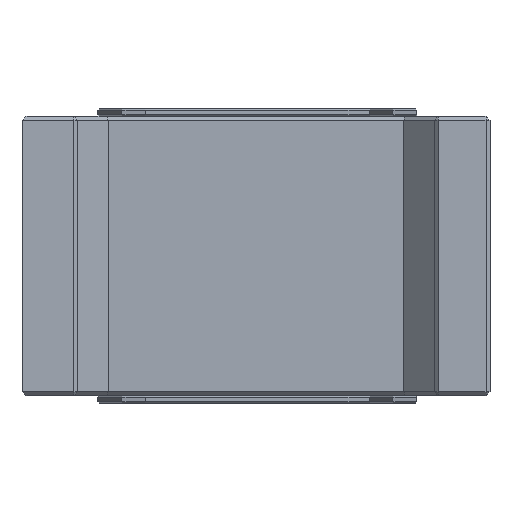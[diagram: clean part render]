
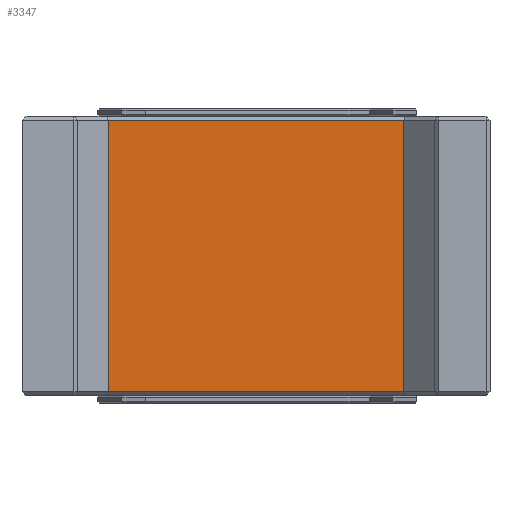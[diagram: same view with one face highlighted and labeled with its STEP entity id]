
A CAD part, front view. The second image highlights one B-rep face of the part: STEP entity #3347.
In plain terms, the highlighted planar face has unit normal (0, -1, 0).
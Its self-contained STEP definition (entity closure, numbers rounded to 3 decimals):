
#139 = CARTESIAN_POINT ( 'NONE',  ( -18.697, 39.25, 17. ) ) ;
#230 = VECTOR ( 'NONE', #6317, 1000. ) ;
#317 = DIRECTION ( 'NONE',  ( 0., 0., -1. ) ) ;
#1069 = ORIENTED_EDGE ( 'NONE', *, *, #4282, .F. ) ;
#1135 = LINE ( 'NONE', #4544, #6747 ) ;
#1563 = ORIENTED_EDGE ( 'NONE', *, *, #5761, .T. ) ;
#1649 = LINE ( 'NONE', #2416, #230 ) ;
#1713 = VERTEX_POINT ( 'NONE', #2259 ) ;
#1747 = DIRECTION ( 'NONE',  ( 0., 0., -1. ) ) ;
#1761 = PLANE ( 'NONE',  #6061 ) ;
#1810 = EDGE_CURVE ( 'NONE', #4266, #1713, #1135, .T. ) ;
#1941 = VERTEX_POINT ( 'NONE', #7048 ) ;
#2259 = CARTESIAN_POINT ( 'NONE',  ( -18.697, 39.25, -17. ) ) ;
#2416 = CARTESIAN_POINT ( 'NONE',  ( 18.345, 39.25, -17. ) ) ;
#2444 = LINE ( 'NONE', #139, #6906 ) ;
#3347 = ADVANCED_FACE ( 'NONE', ( #4528 ), #1761, .F. ) ;
#3459 = DIRECTION ( 'NONE',  ( 0., 0., 1. ) ) ;
#3995 = VECTOR ( 'NONE', #317, 1000. ) ;
#4112 = DIRECTION ( 'NONE',  ( -1., 0., 0. ) ) ;
#4266 = VERTEX_POINT ( 'NONE', #4722 ) ;
#4279 = ORIENTED_EDGE ( 'NONE', *, *, #6725, .T. ) ;
#4282 = EDGE_CURVE ( 'NONE', #1941, #5464, #4597, .T. ) ;
#4504 = DIRECTION ( 'NONE',  ( 0., 1., 0. ) ) ;
#4528 = FACE_OUTER_BOUND ( 'NONE', #7035, .T. ) ;
#4544 = CARTESIAN_POINT ( 'NONE',  ( -18.697, 39.25, 17.5 ) ) ;
#4597 = LINE ( 'NONE', #5303, #3995 ) ;
#4722 = CARTESIAN_POINT ( 'NONE',  ( -18.697, 39.25, 17. ) ) ;
#4897 = CARTESIAN_POINT ( 'NONE',  ( 18.345, 39.25, -17. ) ) ;
#4900 = ORIENTED_EDGE ( 'NONE', *, *, #1810, .T. ) ;
#5303 = CARTESIAN_POINT ( 'NONE',  ( 18.345, 39.25, 17.5 ) ) ;
#5464 = VERTEX_POINT ( 'NONE', #4897 ) ;
#5627 = CARTESIAN_POINT ( 'NONE',  ( -18.697, 39.25, 17.5 ) ) ;
#5761 = EDGE_CURVE ( 'NONE', #1941, #4266, #2444, .T. ) ;
#6061 = AXIS2_PLACEMENT_3D ( 'NONE', #5627, #4504, #3459 ) ;
#6317 = DIRECTION ( 'NONE',  ( 1., 0., 0. ) ) ;
#6725 = EDGE_CURVE ( 'NONE', #1713, #5464, #1649, .T. ) ;
#6747 = VECTOR ( 'NONE', #1747, 1000. ) ;
#6906 = VECTOR ( 'NONE', #4112, 1000. ) ;
#7035 = EDGE_LOOP ( 'NONE', ( #4900, #4279, #1069, #1563 ) ) ;
#7048 = CARTESIAN_POINT ( 'NONE',  ( 18.345, 39.25, 17. ) ) ;
